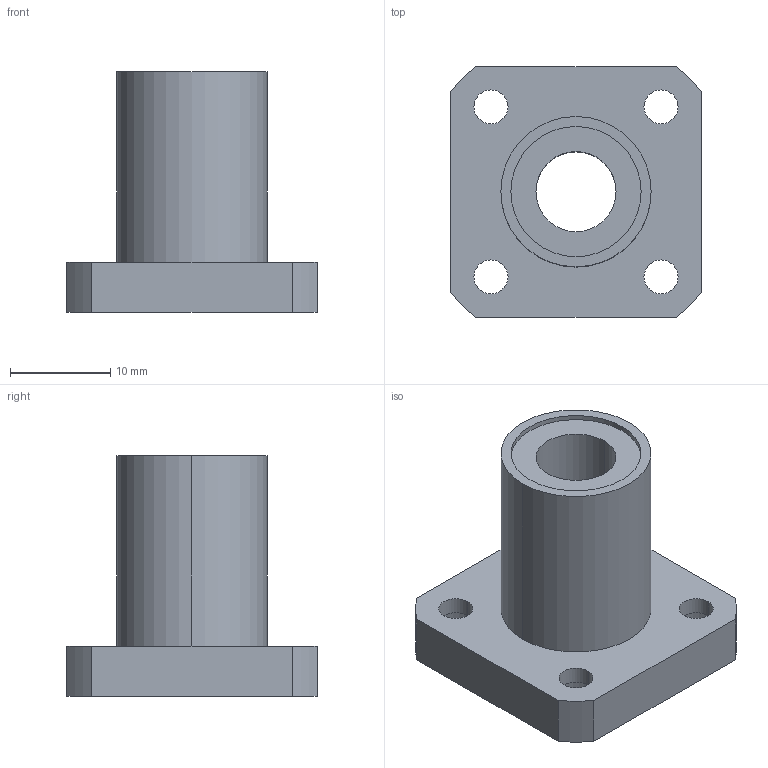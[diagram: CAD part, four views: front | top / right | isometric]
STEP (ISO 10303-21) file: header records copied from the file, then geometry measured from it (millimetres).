
FILE_DESCRIPTION((''),'2;1');
FILE_NAME('C:\Documents and Settings\ｿﾀﾀ蠑ｷ1\ｹﾙﾅﾁ ﾈｭｸ饅\ｺﾎﾇｰﾆﾄﾀﾏ\ﾁｦﾇｰ\LMK__UU\LMK8UU.stp','2005-06-15T09:46:36',('ｿﾀﾀ蠑ｷ1'),(''),'Autodesk Inventor 9','Autodesk Inventor 9','');
FILE_SCHEMA(('AUTOMOTIVE_DESIGN { 1 0 10303 214 1 1 1 1 }'));
Length unit declared in the file: millimetre
Products named in the file (1): LMK__
Bounding box: 25 x 25 x 24 mm (x, y, z)
Volume: 4572.3 mm3; surface area: 3391.6 mm2
Topology: 1 solids, 1 shells, 44 faces, 102 edges, 68 vertices
Faces by surface type: cylinder 30, plane 14
Entity records: 1329 total; most frequent: DIRECTION 252, CARTESIAN_POINT 215, ORIENTED_EDGE 204, AXIS2_PLACEMENT_3D 105, EDGE_CURVE 102, VERTEX_POINT 68, EDGE_LOOP 62, CIRCLE 60
